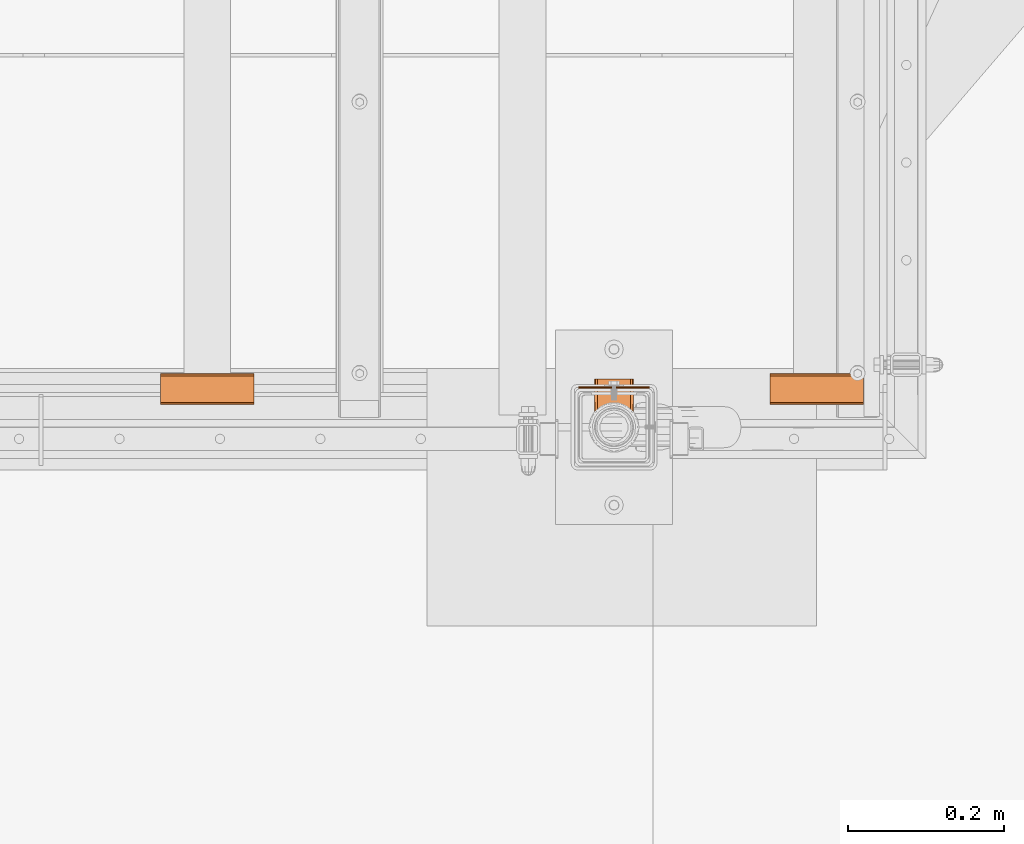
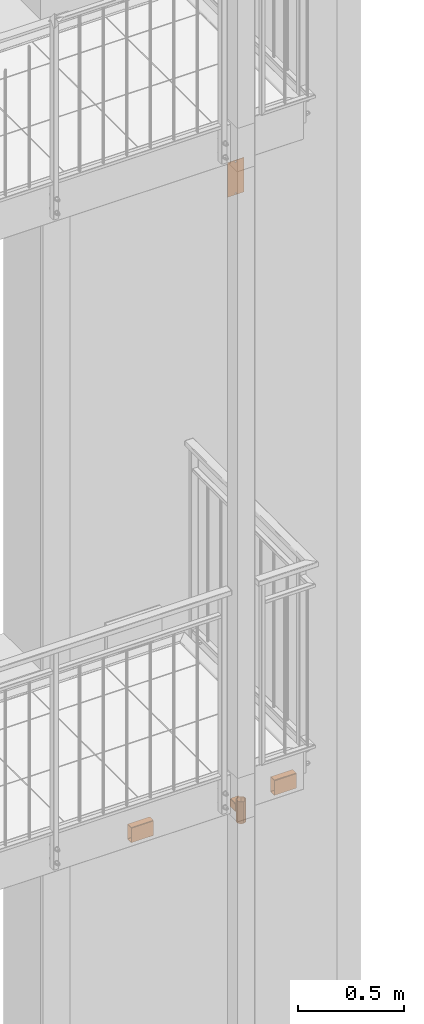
# One storey, part 85 of 162: 4 proxies.
"""IFC2X3 building model written with IfcOpenShell, lengths in millimetres."""

import ifcopenshell
import ifcopenshell.guid

model = None  # the IFC model being written
_history = None  # IfcOwnerHistory: only IFC2X3 demands one
_inside = {}  # id of a spatial element -> (the spatial element, [elements in it])
_under = {}  # id of a project, library or spatial element -> (it, [spatial elements below it])
_declared = {}  # id of a project -> (the project, [libraries it declares])
_typed = {}  # id of a type object -> (the type object, [elements of that type])
_made_of = {}  # id of a material, layer set ... -> (it, [elements and type objects made of it])


def new_model(schema):
    """Start an empty IFC model of exactly this schema.

    Asked for "IFC4X3", IfcOpenShell would pick the latest addendum, in which some entities
    have other attributes; the version numbers below select the first issue.
    IFC2X3 requires an IfcOwnerHistory on every rooted entity: one is made here for all.
    """
    global model, _history
    if schema == "IFC4X3":
        model = ifcopenshell.file(schema_version=(4, 3, 0, 0))
    else:
        model = ifcopenshell.file(schema=schema)
    _inside.clear()
    _under.clear()
    _declared.clear()
    _typed.clear()
    _made_of.clear()
    _history = None
    if model.schema == "IFC2X3":
        org = make("IfcOrganization", Name="unknown")
        user = make(
            "IfcPersonAndOrganization",
            ThePerson=make("IfcPerson", FamilyName="unknown"),
            TheOrganization=org,
        )
        app = make(
            "IfcApplication",
            ApplicationDeveloper=org,
            Version="unknown",
            ApplicationFullName="unknown",
            ApplicationIdentifier="unknown",
        )
        _history = make(
            "IfcOwnerHistory",
            OwningUser=user,
            OwningApplication=app,
            ChangeAction="ADDED",
            CreationDate=0,
        )
    return model


def make(cls, **values):
    """One entity of the class cls with the attributes given. An attribute that is None is left unset."""
    return model.create_entity(
        cls, **{name: value for name, value in values.items() if value is not None}
    )


def entity(cls, *values):
    """Any entity or typed value of the class cls, its attributes in the order of the schema. None: left unset."""
    e = model.create_entity(cls)
    for i, value in enumerate(values):
        if value is not None:
            e[i] = value
    return e


def rooted(cls, **values):
    """An entity with a GlobalId (a new one), such as an element, a storey or a relation."""
    return make(cls, GlobalId=ifcopenshell.guid.new(), OwnerHistory=_history, **values)


def si_unit(unit_type, name, prefix=None):
    """IfcSIUnit, for example si_unit("LENGTHUNIT", "METRE", prefix="MILLI")."""
    return make("IfcSIUnit", UnitType=unit_type, Prefix=prefix, Name=name)


def converted_unit(unit_type, name, factor, base, dimensions=None, offset=None):
    """IfcConversionBasedUnit, such as the inch: factor (a typed value) times the base unit."""
    return make(
        "IfcConversionBasedUnit"
        if offset is None
        else "IfcConversionBasedUnitWithOffset",
        ConversionOffset=offset,
        Dimensions=None
        if dimensions is None
        else entity("IfcDimensionalExponents", *dimensions),
        UnitType=unit_type,
        Name=name,
        ConversionFactor=make(
            "IfcMeasureWithUnit", ValueComponent=factor, UnitComponent=base
        ),
    )


def assignment(units):
    """IfcUnitAssignment: the units of a project."""
    return None if units is None else make("IfcUnitAssignment", Units=units)


def point(xyz):
    """IfcCartesianPoint."""
    return None if xyz is None else make("IfcCartesianPoint", Coordinates=xyz)


def direction(xyz):
    """IfcDirection."""
    return None if xyz is None else make("IfcDirection", DirectionRatios=xyz)


def frame(location, z_axis=None, x_axis=None):
    """IfcAxis2Placement3D, a coordinate frame: its origin and axes. An axis left out is left unset."""
    return make(
        "IfcAxis2Placement3D",
        Location=point(location),
        Axis=direction(z_axis),
        RefDirection=direction(x_axis),
    )


def origin_with_axes():
    """The frame at (0, 0, 0) with the z axis (0, 0, 1) and the x axis (1, 0, 0) written out."""
    return frame((0.0, 0.0, 0.0), z_axis=(0.0, 0.0, 1.0), x_axis=(1.0, 0.0, 0.0))


def place(relative_to, where):
    """IfcLocalPlacement: puts the frame where relative to a parent placement (None: the world)."""
    return make(
        "IfcLocalPlacement", PlacementRelTo=relative_to, RelativePlacement=where
    )


def context(
    kind, dimensions, precision=None, world=None, true_north=None, identifier=None
):
    """IfcGeometricRepresentationContext, for example the 3D "Model" context."""
    return make(
        "IfcGeometricRepresentationContext",
        ContextIdentifier=identifier,
        ContextType=kind,
        CoordinateSpaceDimension=dimensions,
        Precision=precision,
        WorldCoordinateSystem=world,
        TrueNorth=true_north,
    )


def project(units=None, contexts=None):
    """IfcProject with its units and contexts."""
    return rooted(
        "IfcProject",
        Name="project",
        RepresentationContexts=contexts,
        UnitsInContext=assignment(units),
    )


def spatial(cls, under=None, at=None, **own):
    """A site, building, storey or space (cls), placed at a placement, below another one or the project."""
    s = rooted(cls, ObjectPlacement=at, **own)
    if under is not None:
        _under.setdefault(under.id(), (under, []))[1].append(s)
    return s


def faces_of(points, faces, orient=None, outer=None):
    """IfcFace entities. A face is a list of loops; a loop is a list of indices into points, from 0.

    orient and outer hold one flag for each loop. By default every Orientation is true, the
    first loop of a face is its IfcFaceOuterBound and the others are IfcFaceBound.
    """
    made = []
    for i, loops in enumerate(faces):
        bounds = []
        for j, loop in enumerate(loops):
            is_outer = j == 0 if outer is None else outer[i][j]
            bounds.append(
                make(
                    "IfcFaceOuterBound" if is_outer else "IfcFaceBound",
                    Bound=make("IfcPolyLoop", Polygon=[points[k] for k in loop]),
                    Orientation=True if orient is None else orient[i][j],
                )
            )
        made.append(make("IfcFace", Bounds=bounds))
    return made


def faceted_brep(points, faces, orient=None, outer=None, voids=None):
    """IfcFacetedBrep: a solid bounded by flat faces; with voids (closed shells), ...WithVoids."""
    shared = [point(p) for p in points]
    hull = make("IfcClosedShell", CfsFaces=faces_of(shared, faces, orient, outer))
    if voids is None:
        return make("IfcFacetedBrep", Outer=hull)
    return make(
        "IfcFacetedBrepWithVoids",
        Outer=hull,
        Voids=[
            make(cls, CfsFaces=faces_of(shared, fs, o, b)) for cls, fs, o, b in voids
        ],
    )


def shape(context_of_items, identifier, shape_type, items):
    """IfcShapeRepresentation: the items that make up one representation, for example the "Body"."""
    return make(
        "IfcShapeRepresentation",
        ContextOfItems=context_of_items,
        RepresentationIdentifier=identifier,
        RepresentationType=shape_type,
        Items=items,
    )


def material(Name=None, Category=None):
    """IfcMaterial."""
    return make("IfcMaterial", Name=Name, Category=Category)


def made_of(thing, what):
    """Note that an element or type object is made of a material, layer set ...; save() writes the relation."""
    if what is not None:
        _made_of.setdefault(what.id(), (what, []))[1].append(thing)
    return thing


def element(
    cls,
    number,
    at=None,
    inside=None,
    cuts=None,
    type_object=None,
    material=None,
    context=None,
    identifier="Body",
    shape_type=None,
    held_by="IfcProductDefinitionShape",
    body=None,
    shapes=None,
    **own,
):
    """One element of the class cls, such as IfcWall. Its Tag is "e" and its number.

    at: its placement. inside: the storey or other place that contains it. cuts: it is an
    opening in that element (IfcRelVoidsElement). A single representation is given by context,
    identifier, shape_type and body (its items); several are given by shapes. held_by: the class
    of the entity that holds the representations. save() writes the other relations.
    """
    e = rooted(cls, Tag="e%d" % number, ObjectPlacement=at, **own)
    if body is not None:
        shapes = [shape(context, identifier, shape_type, body)]
    if shapes is not None:
        e.Representation = make(held_by, Representations=shapes)
    if inside is not None:
        _inside.setdefault(inside.id(), (inside, []))[1].append(e)
    if cuts is not None:
        rooted(
            "IfcRelVoidsElement", RelatingBuildingElement=cuts, RelatedOpeningElement=e
        )
    if type_object is not None:
        _typed.setdefault(type_object.id(), (type_object, []))[1].append(e)
    return made_of(e, material)


def aggregate(whole, parts):
    """IfcRelAggregates: a whole, such as a stair, and the parts it consists of."""
    return rooted("IfcRelAggregates", RelatingObject=whole, RelatedObjects=parts)


def save(model, path):
    """Write the relations noted so far, then the file.

    IfcRelAggregates (storeys below a building ...), IfcRelContainedInSpatialStructure (elements
    in a storey), IfcRelDefinesByType, IfcRelAssociatesMaterial and IfcRelDeclares: one each for
    every whole, place, type object, material and project.
    """
    for whole, parts in _under.values():
        aggregate(whole, parts)
    for where, things in _inside.values():
        rooted(
            "IfcRelContainedInSpatialStructure",
            RelatedElements=things,
            RelatingStructure=where,
        )
    for kind, things in _typed.values():
        rooted("IfcRelDefinesByType", RelatedObjects=things, RelatingType=kind)
    for what, things in _made_of.values():
        rooted("IfcRelAssociatesMaterial", RelatedObjects=things, RelatingMaterial=what)
    for by, libraries in _declared.values():
        rooted("IfcRelDeclares", RelatingContext=by, RelatedDefinitions=libraries)
    model.write(path)


model = new_model("IFC2X3")

# Units and contexts
model_context = context("Model", 3, precision=1e-09, world=origin_with_axes())
ifc_project = project(units=[si_unit("LENGTHUNIT", "METRE", prefix="MILLI"), si_unit("AREAUNIT", "SQUARE_METRE"), si_unit("VOLUMEUNIT", "CUBIC_METRE"), converted_unit("PLANEANGLEUNIT", "DEGREE", entity("IfcPlaneAngleMeasure", 0.01745329), si_unit("PLANEANGLEUNIT", "RADIAN"), dimensions=[0, 0, 0, 0, 0, 0, 0])], contexts=[model_context])

# Site, building, storey
site_placement = place(None, origin_with_axes())
site = spatial("IfcSite", under=ifc_project, at=site_placement, Name="Hermannstra?e 1a, 60318 Frankfurt", CompositionType="ELEMENT")
building_placement = place(site_placement, origin_with_axes())
building = spatial("IfcBuilding", under=site, at=building_placement, Name="Struktur 1", CompositionType="ELEMENT")
storey_placement = place(building_placement, origin_with_axes())
storey = spatial("IfcBuildingStorey", under=building, at=storey_placement, Name="Default Storey", CompositionType="ELEMENT", Elevation=0.0)

# Proxies
ifc_material_1 = material(Name="S235JR")
proxy_1_placement = place(None, origin_with_axes())
element("IfcBuildingElementProxy", 1, at=proxy_1_placement, inside=storey, material=ifc_material_1, ObjectType="-", context=model_context, shape_type="Brep", body=[
    faceted_brep([(5452.350576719, 1542.609373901, 11292.571710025), (5452.327698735, 1542.609373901, 11292.381537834), (5452.30936482, 1592.609373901, 11291.999), (5450.201414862, 1542.609373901, 11252.832478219), (5452.350576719, 1542.609373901, 11251.047165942), (5452.350576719, 1542.609373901, 11257.426289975), (5452.327698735, 1542.609373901, 11257.616462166), (5452.313950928, 1542.609373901, 11257.807511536), (5452.30936482, 1542.609373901, 11257.999), (5452.30936482, 1542.609373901, 11291.999), (5452.313950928, 1542.609373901, 11292.190488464), (5452.350576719, 1542.609373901, 11298.950834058), (5450.201414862, 1542.609373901, 11297.165521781), (5448.797254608, 1542.609373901, 11294.750036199), (5448.30936482, 1542.609373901, 11291.999), (5448.30936482, 1542.609373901, 11257.999), (5448.797254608, 1542.609373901, 11255.247963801), (5452.563771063, 1542.974289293, 11293.402750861), (5452.845263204, 1592.609373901, 11293.999), (5452.911785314, 1543.540321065, 11294.110024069), (5449.381161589, 1592.609373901, 11295.999), (5448.30936482, 1592.609373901, 11291.999), (5452.30936482, 1592.609373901, 11298.92720323), (5456.30936482, 1592.609373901, 11299.999), (5490.30936482, 1592.609373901, 11299.999), (5494.30936482, 1592.609373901, 11298.92720323), (5497.23756805, 1592.609373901, 11295.999), (5498.30936482, 1592.609373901, 11291.999), (5498.30936482, 1592.609373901, 11257.999), (5497.23756805, 1592.609373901, 11253.999), (5494.30936482, 1592.609373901, 11251.07079677), (5490.30936482, 1592.609373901, 11249.999), (5456.30936482, 1592.609373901, 11249.999), (5452.30936482, 1592.609373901, 11251.07079677), (5449.381161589, 1592.609373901, 11253.999), (5448.30936482, 1592.609373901, 11257.999), (5454.30936482, 1592.609373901, 11295.463101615), (5452.30936482, 1592.609373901, 11257.999), (5452.845263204, 1592.609373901, 11255.999), (5454.30936482, 1592.609373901, 11254.534898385), (5456.30936482, 1592.609373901, 11253.999), (5490.30936482, 1592.609373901, 11253.999), (5492.30936482, 1592.609373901, 11254.534898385), (5493.773466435, 1592.609373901, 11255.999), (5494.30936482, 1592.609373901, 11257.999), (5494.30936482, 1592.609373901, 11291.999), (5493.773466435, 1592.609373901, 11293.999), (5492.30936482, 1592.609373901, 11295.463101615), (5490.30936482, 1592.609373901, 11295.999), (5456.30936482, 1592.609373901, 11295.999), (5453.822811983, 1544.876293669, 11295.132217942), (5456.30936482, 1547.7636969, 11295.999), (5456.30936482, 1547.7636969, 11299.999), (5464.117609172, 1552.942811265, 11295.999), (5464.117609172, 1552.942811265, 11299.999), (5452.573414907, 1542.990448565, 11256.569836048), (5490.30936482, 1547.763696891, 11295.999), (5482.50112047, 1552.942811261, 11295.999), (5473.309364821, 1554.760373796, 11295.999), (5473.309364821, 1554.760373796, 11299.999), (5452.924848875, 1543.560904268, 11255.867118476), (5482.50112047, 1552.942811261, 11299.999), (5490.30936482, 1547.763696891, 11299.999), (5453.844527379, 1544.905878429, 11254.84870281), (5456.30936482, 1547.7636969, 11249.999), (5456.30936482, 1547.7636969, 11253.999), (5464.117609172, 1552.942811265, 11249.999), (5464.117609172, 1552.942811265, 11253.999), (5490.30936482, 1547.763696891, 11249.999), (5482.50112047, 1552.942811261, 11249.999), (5473.309364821, 1554.760373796, 11249.999), (5473.309364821, 1554.760373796, 11253.999), (5493.706944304, 1543.540321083, 11294.110024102), (5494.054958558, 1542.974289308, 11293.402750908), (5494.268152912, 1542.609373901, 11298.950834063), (5494.268152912, 1542.609373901, 11292.571710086), (5492.795917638, 1544.876293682, 11295.132217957), (5482.50112047, 1552.942811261, 11253.999), (5490.30936482, 1547.763696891, 11253.999), (5496.417314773, 1542.609373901, 11252.832478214), (5497.82147503, 1542.609373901, 11255.247963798), (5498.30936482, 1542.609373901, 11257.999), (5498.30936482, 1542.609373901, 11291.999), (5497.82147503, 1542.609373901, 11294.750036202), (5496.417314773, 1542.609373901, 11297.165521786), (5494.2910309, 1542.609373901, 11292.381537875), (5494.304778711, 1542.609373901, 11292.190488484), (5494.30936482, 1542.609373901, 11291.999), (5494.30936482, 1542.609373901, 11257.999), (5494.304778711, 1542.609373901, 11257.807511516), (5494.2910309, 1542.609373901, 11257.616462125), (5494.268152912, 1542.609373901, 11257.426289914), (5494.268152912, 1542.609373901, 11251.047165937), (5492.774202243, 1544.90587844, 11254.848702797), (5493.693880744, 1543.560904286, 11255.867118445), (5494.045314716, 1542.990448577, 11256.569836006)], [[[0, 1, 2]], [[3, 4, 5, 6, 7, 8, 9, 10, 1, 0, 11, 12, 13, 14, 15, 16]], [[17, 0, 2]], [[17, 11, 0]], [[10, 2, 1]], [[17, 2, 18]], [[19, 17, 18]], [[17, 19, 11]], [[10, 9, 2]], [[20, 21, 13]], [[22, 20, 12]], [[20, 22, 23, 24, 25, 26, 27, 28, 29, 30, 31, 32, 33, 34, 35, 21], [36, 18, 2, 37, 38, 39, 40, 41, 42, 43, 44, 45, 46, 47, 48, 49]], [[50, 19, 18]], [[19, 50, 11]], [[9, 8, 37, 2]], [[20, 13, 12]], [[21, 14, 13]], [[15, 14, 21, 35]], [[22, 12, 11]], [[50, 18, 36]], [[50, 51, 52]], [[50, 52, 11]], [[51, 53, 54, 52]], [[7, 6, 37]], [[7, 37, 8]], [[5, 37, 6]], [[16, 15, 35]], [[5, 4, 55]], [[23, 22, 11]], [[51, 50, 36]], [[49, 48, 56, 57, 58, 53, 51]], [[23, 11, 52]], [[53, 58, 59, 54]], [[5, 55, 37]], [[16, 35, 34]], [[60, 55, 4]], [[51, 36, 49]], [[59, 61, 62, 24, 23, 52, 54]], [[3, 16, 34]], [[55, 38, 37]], [[55, 60, 38]], [[63, 60, 4]], [[58, 57, 61, 59]], [[4, 3, 33]], [[3, 34, 33]], [[60, 63, 38]], [[63, 4, 64]], [[57, 56, 62, 61]], [[64, 4, 33]], [[63, 39, 38]], [[65, 63, 64]], [[64, 66, 67, 65]], [[56, 48, 47]], [[32, 31, 68, 69, 70, 66, 64]], [[64, 33, 32]], [[63, 65, 39]], [[66, 70, 71, 67]], [[72, 73, 74]], [[75, 74, 73]], [[72, 76, 46]], [[76, 56, 47]], [[56, 76, 62]], [[76, 72, 74]], [[65, 40, 39]], [[71, 77, 78, 41, 40, 65, 67]], [[73, 72, 46]], [[75, 73, 45]], [[79, 80, 81, 82, 83, 84, 74, 75, 85, 86, 87, 88, 89, 90, 91, 92]], [[76, 47, 46]], [[62, 25, 24]], [[76, 74, 62]], [[77, 71, 70, 69]], [[78, 77, 69, 68]], [[73, 46, 45]], [[75, 45, 85]], [[62, 74, 25]], [[93, 78, 68]], [[94, 93, 92]], [[95, 94, 92]], [[91, 90, 44]], [[95, 92, 91]], [[86, 85, 45]], [[74, 84, 25]], [[89, 88, 44]], [[89, 44, 90]], [[93, 68, 92]], [[78, 42, 41]], [[78, 93, 42]], [[93, 94, 43]], [[94, 95, 43]], [[95, 91, 44]], [[86, 45, 87]], [[88, 87, 45, 44]], [[83, 27, 26]], [[84, 26, 25]], [[31, 92, 68]], [[93, 43, 42]], [[82, 81, 28, 27]], [[95, 44, 43]], [[83, 82, 27]], [[84, 83, 26]], [[31, 30, 92]], [[30, 79, 92]], [[28, 81, 80]], [[30, 29, 79]], [[29, 28, 80]], [[29, 80, 79]]]),
    faceted_brep([(5452.458054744, 1538.082250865, 11293.083774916), (5452.349523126, 1537.772303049, 11292.572274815), (5452.436342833, 1542.755917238, 11293.003005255), (5452.350714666, 1537.775786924, 11257.417484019), (5452.458814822, 1538.084468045, 11256.911278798), (5452.425069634, 1542.736564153, 11257.038862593), (5452.30836482, 1542.533320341, 11257.998), (5452.30836482, 1542.533320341, 11292.0), (5450.997674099, 1539.851178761, 11197.999), (5450.997674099, 1539.851178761, 11323.999), (5452.749261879, 1543.278325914, 11293.825042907), (5452.775277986, 1538.914394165, 11293.875444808), (5453.074332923, 1539.618590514, 11323.999), (5452.733221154, 1543.252318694, 11256.204072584), (5452.784214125, 1538.93644692, 11256.105836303), (5453.074332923, 1539.618590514, 11197.999), (5452.30836482, 1537.650716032, 11257.998), (5452.30836482, 1537.650716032, 11292.0), (5453.690911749, 1544.692624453, 11295.024687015), (5453.674163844, 1540.860237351, 11295.010116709), (5453.674712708, 1540.861329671, 11254.987368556), (5453.659785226, 1544.649160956, 11255.000497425), (5449.15936481, 1530.60937387, 11197.999), (5449.15936481, 1530.60937387, 11323.999), (5451.15936481, 1530.60937387, 11323.999), (5456.30836482, 1544.807560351, 11296.0), (5456.232736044, 1513.532745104, 11197.999), (5450.997674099, 1521.367568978, 11197.999), (5456.232736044, 1547.686002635, 11197.999), (5464.067559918, 1552.92106458, 11197.999), (5473.30936481, 1554.75937387, 11197.999), (5482.551169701, 1552.92106458, 11197.999), (5490.385993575, 1547.686002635, 11197.999), (5495.62105552, 1539.851178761, 11197.999), (5497.45936481, 1530.60937387, 11197.999), (5495.62105552, 1521.367568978, 11197.999), (5490.385993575, 1513.532745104, 11197.999), (5482.551169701, 1508.29768316, 11197.999), (5473.30936481, 1506.45937387, 11197.999), (5464.067559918, 1508.29768316, 11197.999), (5451.15936481, 1530.60937387, 11197.999), (5453.074332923, 1521.600157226, 11197.999), (5458.488121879, 1514.148715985, 11197.999), (5466.464638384, 1509.543472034, 11197.999), (5475.624670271, 1508.580713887, 11197.999), (5484.38436481, 1511.426911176, 11197.999), (5491.229091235, 1517.589930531, 11197.999), (5494.975334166, 1526.004129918, 11197.999), (5494.975334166, 1535.214617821, 11197.999), (5491.229091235, 1543.628817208, 11197.999), (5484.38436481, 1549.791836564, 11197.999), (5475.624670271, 1552.638033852, 11197.999), (5466.464638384, 1551.675275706, 11197.999), (5458.488121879, 1547.070031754, 11197.999), (5456.30836482, 1544.807560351, 11253.998), (5456.232736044, 1547.686002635, 11323.999), (5450.997674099, 1521.367568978, 11323.999), (5456.232736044, 1513.532745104, 11323.999), (5464.067559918, 1508.29768316, 11323.999), (5473.30936481, 1506.45937387, 11323.999), (5482.551169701, 1508.29768316, 11323.999), (5490.385993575, 1513.532745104, 11323.999), (5495.62105552, 1521.367568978, 11323.999), (5497.45936481, 1530.60937387, 11323.999), (5495.62105552, 1539.851178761, 11323.999), (5490.385993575, 1547.686002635, 11323.999), (5482.551169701, 1552.92106458, 11323.999), (5473.30936481, 1554.75937387, 11323.999), (5464.067559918, 1552.92106458, 11323.999), (5458.488121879, 1547.070031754, 11323.999), (5466.464638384, 1551.675275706, 11323.999), (5475.624670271, 1552.638033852, 11323.999), (5484.38436481, 1549.791836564, 11323.999), (5491.229091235, 1543.628817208, 11323.999), (5494.975334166, 1535.214617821, 11323.999), (5494.975334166, 1526.004129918, 11323.999), (5491.229091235, 1517.589930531, 11323.999), (5484.38436481, 1511.426911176, 11323.999), (5475.624670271, 1508.580713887, 11323.999), (5466.464638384, 1509.543472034, 11323.999), (5458.488121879, 1514.148715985, 11323.999), (5453.074332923, 1521.600157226, 11323.999), (5456.30836482, 1547.761297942, 11296.0), (5456.30836482, 1547.761297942, 11253.998), (5482.501849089, 1552.94143004, 11296.0), (5490.31036482, 1547.76129792, 11296.0), (5490.31036482, 1544.807560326, 11296.0), (5484.411161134, 1549.776340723, 11296.0), (5477.16583286, 1552.421071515, 11296.0), (5469.452896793, 1552.421071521, 11296.0), (5462.207568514, 1549.77634074, 11296.0), (5464.116880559, 1552.941430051, 11296.0), (5473.309364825, 1554.75937387, 11296.0), (5477.16583286, 1552.421071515, 11253.998), (5484.411161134, 1549.776340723, 11253.998), (5490.31036482, 1544.807560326, 11253.998), (5490.31036482, 1547.76129792, 11253.998), (5482.501849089, 1552.94143004, 11253.998), (5473.309364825, 1554.75937387, 11253.998), (5464.116880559, 1552.941430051, 11253.998), (5462.207568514, 1549.77634074, 11253.998), (5469.452896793, 1552.421071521, 11253.998), (5492.958944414, 1544.649160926, 11294.997502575), (5492.944565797, 1540.860237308, 11295.010116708), (5493.885508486, 1543.25231866, 11293.793927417), (5494.193660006, 1542.736564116, 11292.959137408), (5492.944565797, 1540.860237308, 11254.987883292), (5492.958944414, 1544.649160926, 11255.000497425), (5494.160674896, 1538.082250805, 11293.083774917), (5493.843451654, 1538.914394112, 11256.122555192), (5493.885508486, 1543.25231866, 11256.204072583), (5493.843451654, 1538.914394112, 11293.875444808), (5494.193660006, 1542.736564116, 11257.038862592), (5494.31036482, 1542.533320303, 11292.0), (5494.269206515, 1537.772302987, 11292.572274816), (5494.160674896, 1538.082250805, 11256.914225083), (5494.31036482, 1542.533320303, 11257.998), (5494.31036482, 1537.650715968, 11292.0), (5494.31036482, 1537.650715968, 11257.998), (5494.269206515, 1537.772302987, 11257.425725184)], [[[0, 1, 2]], [[3, 4, 5]], [[3, 5, 6]], [[1, 7, 2]], [[7, 6, 8, 9]], [[7, 9, 2]], [[0, 2, 10]], [[11, 0, 10]], [[12, 1, 0]], [[6, 5, 8]], [[4, 13, 5]], [[4, 14, 13]], [[4, 3, 15]], [[3, 6, 16]], [[1, 17, 7]], [[6, 7, 17, 16]], [[10, 2, 9]], [[11, 10, 18]], [[12, 17, 1]], [[19, 11, 18]], [[12, 0, 11]], [[5, 13, 8]], [[4, 15, 14]], [[14, 20, 13]], [[20, 21, 13]], [[3, 16, 15]], [[9, 8, 22, 23]], [[18, 10, 9]], [[12, 24, 17]], [[25, 19, 18]], [[12, 11, 19]], [[21, 8, 13]], [[26, 27, 22, 8, 28, 29, 30, 31, 32, 33, 34, 35, 36, 37, 38, 39], [40, 41, 42, 43, 44, 45, 46, 47, 48, 49, 50, 51, 52, 53, 15]], [[20, 14, 15]], [[20, 54, 21]], [[40, 15, 16]], [[17, 24, 40, 16]], [[55, 9, 23, 56, 57, 58, 59, 60, 61, 62, 63, 64, 65, 66, 67, 68], [24, 12, 69, 70, 71, 72, 73, 74, 75, 76, 77, 78, 79, 80, 81]], [[23, 22, 27, 56]], [[18, 9, 55]], [[25, 18, 82]], [[12, 19, 25]], [[21, 28, 8]], [[54, 20, 15]], [[54, 83, 21]], [[82, 18, 55]], [[84, 85, 86, 87, 88, 89, 90, 25, 82, 91, 92]], [[69, 12, 25]], [[21, 83, 28]], [[54, 15, 53]], [[93, 94, 95, 96, 97, 98, 99, 83, 54, 100, 101]], [[40, 24, 81, 41]], [[56, 27, 26, 57]], [[82, 55, 68]], [[69, 25, 90]], [[83, 29, 28]], [[100, 54, 53]], [[91, 82, 68]], [[70, 69, 90]], [[83, 99, 29]], [[100, 53, 52]], [[41, 81, 80, 42]], [[57, 26, 39, 58]], [[92, 91, 67]], [[91, 68, 67]], [[70, 90, 89]], [[99, 98, 30]], [[99, 30, 29]], [[101, 100, 52]], [[84, 92, 67]], [[71, 70, 89]], [[98, 97, 30]], [[101, 52, 51]], [[42, 80, 79, 43]], [[58, 39, 38, 59]], [[84, 67, 66]], [[71, 89, 88]], [[97, 31, 30]], [[93, 101, 51]], [[85, 84, 66]], [[72, 71, 88]], [[72, 88, 87]], [[97, 96, 31]], [[93, 51, 50]], [[94, 93, 50]], [[43, 79, 78, 44]], [[59, 38, 37, 60]], [[86, 85, 102]], [[85, 66, 65]], [[72, 87, 86]], [[103, 86, 102]], [[103, 102, 104]], [[105, 104, 64]], [[96, 32, 31]], [[95, 94, 50]], [[106, 96, 95]], [[106, 107, 96]], [[108, 104, 105]], [[109, 110, 107]], [[102, 64, 104]], [[102, 85, 65]], [[73, 72, 86]], [[73, 86, 103]], [[111, 103, 104]], [[108, 111, 104]], [[110, 112, 33]], [[113, 105, 64]], [[96, 107, 32]], [[107, 110, 33]], [[95, 50, 49]], [[106, 95, 49]], [[106, 109, 107]], [[44, 78, 77, 45]], [[60, 37, 36, 61]], [[114, 108, 105]], [[114, 105, 113]], [[109, 115, 110]], [[115, 112, 110]], [[102, 65, 64]], [[111, 73, 103]], [[111, 108, 74]], [[116, 33, 112]], [[113, 64, 33, 116]], [[107, 33, 32]], [[109, 106, 49]], [[108, 114, 74]], [[114, 113, 117]], [[113, 116, 118, 117]], [[109, 48, 115]], [[115, 119, 112]], [[119, 116, 112]], [[35, 62, 61, 36]], [[111, 74, 73]], [[109, 49, 48]], [[45, 77, 76, 46]], [[117, 74, 114]], [[119, 115, 48]], [[119, 118, 116]], [[62, 35, 34, 63]], [[63, 34, 33, 64]], [[117, 118, 48, 74]], [[118, 119, 48]], [[46, 76, 75, 47]], [[74, 48, 47, 75]]]),
])
ifc_material_2 = material(Name="Alu")
proxy_2_placement = place(None, origin_with_axes())
element("IfcBuildingElementProxy", 2, at=proxy_2_placement, inside=storey, material=ifc_material_2, ObjectType="-", context=model_context, shape_type="Brep", body=[
    faceted_brep([(5011.55936482, 1596.609373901, 11255.802847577), (5011.55936482, 1598.805526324, 11257.999), (5011.55936482, 1599.609373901, 11260.999), (5011.55936482, 1599.609373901, 11338.999), (5011.55936482, 1598.805526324, 11341.999), (5011.55936482, 1596.609373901, 11344.195152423), (5011.55936482, 1593.609373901, 11344.999), (5011.55936482, 1565.609373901, 11344.999), (5011.55936482, 1562.609373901, 11344.195152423), (5011.55936482, 1560.413221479, 11341.999), (5011.55936482, 1559.609373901, 11338.999), (5011.55936482, 1559.609373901, 11260.999), (5011.55936482, 1560.413221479, 11257.999), (5011.55936482, 1562.609373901, 11255.802847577), (5011.55936482, 1565.609373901, 11254.999), (5011.55936482, 1593.609373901, 11254.999), (5011.55936482, 1596.609373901, 11260.999), (5011.55936482, 1596.207450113, 11259.499), (5011.55936482, 1595.109373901, 11258.400923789), (5011.55936482, 1593.609373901, 11257.999), (5011.55936482, 1565.609373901, 11257.999), (5011.55936482, 1564.109373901, 11258.400923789), (5011.55936482, 1563.01129769, 11259.499), (5011.55936482, 1562.609373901, 11260.999), (5011.55936482, 1562.609373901, 11338.999), (5011.55936482, 1563.01129769, 11340.499), (5011.55936482, 1564.109373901, 11341.597076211), (5011.55936482, 1565.609373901, 11341.999), (5011.55936482, 1593.609373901, 11341.999), (5011.55936482, 1595.109373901, 11341.597076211), (5011.55936482, 1596.207450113, 11340.499), (5011.55936482, 1596.609373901, 11338.999), (4891.55936482, 1596.609373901, 11260.999), (4891.55936482, 1596.207450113, 11259.499), (4891.55936482, 1599.609373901, 11260.999), (4891.55936482, 1598.805526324, 11257.999), (4891.55936482, 1598.805526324, 11341.999), (4891.55936482, 1599.609373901, 11338.999), (4891.55936482, 1596.609373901, 11255.802847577), (4891.55936482, 1593.609373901, 11254.999), (4891.55936482, 1565.609373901, 11254.999), (4891.55936482, 1562.609373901, 11255.802847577), (4891.55936482, 1560.413221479, 11257.999), (4891.55936482, 1559.609373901, 11260.999), (4891.55936482, 1559.609373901, 11338.999), (4891.55936482, 1560.413221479, 11341.999), (4891.55936482, 1562.609373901, 11344.195152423), (4891.55936482, 1565.609373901, 11344.999), (4891.55936482, 1593.609373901, 11344.999), (4891.55936482, 1596.609373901, 11344.195152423), (4891.55936482, 1596.609373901, 11338.999), (4891.55936482, 1596.207450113, 11340.499), (4891.55936482, 1595.109373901, 11341.597076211), (4891.55936482, 1593.609373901, 11341.999), (4891.55936482, 1565.609373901, 11341.999), (4891.55936482, 1564.109373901, 11341.597076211), (4891.55936482, 1563.01129769, 11340.499), (4891.55936482, 1562.609373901, 11338.999), (4891.55936482, 1562.609373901, 11260.999), (4891.55936482, 1563.01129769, 11259.499), (4891.55936482, 1564.109373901, 11258.400923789), (4891.55936482, 1565.609373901, 11257.999), (4891.55936482, 1593.609373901, 11257.999), (4891.55936482, 1595.109373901, 11258.400923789)], [[[0, 1, 2, 3, 4, 5, 6, 7, 8, 9, 10, 11, 12, 13, 14, 15], [16, 17, 18, 19, 20, 21, 22, 23, 24, 25, 26, 27, 28, 29, 30, 31]], [[16, 32, 33, 17]], [[34, 2, 1, 35]], [[36, 37, 34, 35, 38, 39, 40, 41, 42, 43, 44, 45, 46, 47, 48, 49], [50, 51, 52, 53, 54, 55, 56, 57, 58, 59, 60, 61, 62, 63, 33, 32]], [[16, 31, 50, 32]], [[34, 37, 3, 2]], [[3, 37, 36, 4]], [[17, 33, 63, 18]], [[35, 1, 0, 38]], [[50, 31, 30, 51]], [[4, 36, 49, 5]], [[18, 63, 62, 19]], [[38, 0, 15, 39]], [[51, 30, 29, 52]], [[5, 49, 48, 6]], [[62, 61, 20, 19]], [[15, 14, 40, 39]], [[52, 29, 28, 53]], [[48, 47, 7, 6]], [[28, 27, 54, 53]], [[20, 61, 60, 21]], [[40, 14, 13, 41]], [[7, 47, 46, 8]], [[54, 27, 26, 55]], [[21, 60, 59, 22]], [[41, 13, 12, 42]], [[11, 43, 42, 12]], [[8, 46, 45, 9]], [[55, 26, 25, 56]], [[22, 59, 58, 23]], [[11, 10, 44, 43]], [[24, 57, 56, 25]], [[24, 23, 58, 57]], [[9, 45, 44, 10]]]),
])
proxy_3_placement = place(None, origin_with_axes())
element("IfcBuildingElementProxy", 3, at=proxy_3_placement, inside=storey, material=ifc_material_2, ObjectType="-", context=model_context, shape_type="Brep", body=[
    faceted_brep([(5793.30936482, 1596.609373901, 11255.802847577), (5793.30936482, 1598.805526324, 11257.999), (5793.30936482, 1599.609373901, 11260.999), (5793.30936482, 1599.609373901, 11338.999), (5793.30936482, 1598.805526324, 11341.999), (5793.30936482, 1596.609373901, 11344.195152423), (5793.30936482, 1593.609373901, 11344.999), (5793.30936482, 1565.609373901, 11344.999), (5793.30936482, 1562.609373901, 11344.195152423), (5793.30936482, 1560.413221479, 11341.999), (5793.30936482, 1559.609373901, 11338.999), (5793.30936482, 1559.609373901, 11260.999), (5793.30936482, 1560.413221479, 11257.999), (5793.30936482, 1562.609373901, 11255.802847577), (5793.30936482, 1565.609373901, 11254.999), (5793.30936482, 1593.609373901, 11254.999), (5793.30936482, 1596.609373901, 11260.999), (5793.30936482, 1596.207450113, 11259.499), (5793.30936482, 1595.109373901, 11258.400923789), (5793.30936482, 1593.609373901, 11257.999), (5793.30936482, 1565.609373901, 11257.999), (5793.30936482, 1564.109373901, 11258.400923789), (5793.30936482, 1563.01129769, 11259.499), (5793.30936482, 1562.609373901, 11260.999), (5793.30936482, 1562.609373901, 11338.999), (5793.30936482, 1563.01129769, 11340.499), (5793.30936482, 1564.109373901, 11341.597076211), (5793.30936482, 1565.609373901, 11341.999), (5793.30936482, 1593.609373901, 11341.999), (5793.30936482, 1595.109373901, 11341.597076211), (5793.30936482, 1596.207450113, 11340.499), (5793.30936482, 1596.609373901, 11338.999), (5673.30936482, 1596.609373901, 11260.999), (5673.30936482, 1596.207450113, 11259.499), (5673.30936482, 1599.609373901, 11260.999), (5673.30936482, 1598.805526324, 11257.999), (5673.30936482, 1598.805526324, 11341.999), (5673.30936482, 1599.609373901, 11338.999), (5673.30936482, 1596.609373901, 11255.802847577), (5673.30936482, 1593.609373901, 11254.999), (5673.30936482, 1565.609373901, 11254.999), (5673.30936482, 1562.609373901, 11255.802847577), (5673.30936482, 1560.413221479, 11257.999), (5673.30936482, 1559.609373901, 11260.999), (5673.30936482, 1559.609373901, 11338.999), (5673.30936482, 1560.413221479, 11341.999), (5673.30936482, 1562.609373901, 11344.195152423), (5673.30936482, 1565.609373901, 11344.999), (5673.30936482, 1593.609373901, 11344.999), (5673.30936482, 1596.609373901, 11344.195152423), (5673.30936482, 1596.609373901, 11338.999), (5673.30936482, 1596.207450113, 11340.499), (5673.30936482, 1595.109373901, 11341.597076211), (5673.30936482, 1593.609373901, 11341.999), (5673.30936482, 1565.609373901, 11341.999), (5673.30936482, 1564.109373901, 11341.597076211), (5673.30936482, 1563.01129769, 11340.499), (5673.30936482, 1562.609373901, 11338.999), (5673.30936482, 1562.609373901, 11260.999), (5673.30936482, 1563.01129769, 11259.499), (5673.30936482, 1564.109373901, 11258.400923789), (5673.30936482, 1565.609373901, 11257.999), (5673.30936482, 1593.609373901, 11257.999), (5673.30936482, 1595.109373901, 11258.400923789)], [[[0, 1, 2, 3, 4, 5, 6, 7, 8, 9, 10, 11, 12, 13, 14, 15], [16, 17, 18, 19, 20, 21, 22, 23, 24, 25, 26, 27, 28, 29, 30, 31]], [[16, 32, 33, 17]], [[34, 2, 1, 35]], [[36, 37, 34, 35, 38, 39, 40, 41, 42, 43, 44, 45, 46, 47, 48, 49], [50, 51, 52, 53, 54, 55, 56, 57, 58, 59, 60, 61, 62, 63, 33, 32]], [[16, 31, 50, 32]], [[34, 37, 3, 2]], [[3, 37, 36, 4]], [[17, 33, 63, 18]], [[35, 1, 0, 38]], [[50, 31, 30, 51]], [[4, 36, 49, 5]], [[18, 63, 62, 19]], [[38, 0, 15, 39]], [[51, 30, 29, 52]], [[5, 49, 48, 6]], [[62, 61, 20, 19]], [[15, 14, 40, 39]], [[52, 29, 28, 53]], [[48, 47, 7, 6]], [[28, 27, 54, 53]], [[20, 61, 60, 21]], [[40, 14, 13, 41]], [[7, 47, 46, 8]], [[54, 27, 26, 55]], [[21, 60, 59, 22]], [[41, 13, 12, 42]], [[11, 43, 42, 12]], [[8, 46, 45, 9]], [[55, 26, 25, 56]], [[22, 59, 58, 23]], [[11, 10, 44, 43]], [[24, 57, 56, 25]], [[24, 23, 58, 57]], [[9, 45, 44, 10]]]),
])
ifc_material_3 = material(Name="Kein")
proxy_4_placement = place(None, origin_with_axes())
element("IfcBuildingElementProxy", 4, at=proxy_4_placement, inside=storey, material=ifc_material_3, ObjectType="-", context=model_context, shape_type="Brep", body=[
    faceted_brep([(5469.30836482, 1582.609373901, 14796.999), (5469.30836482, 1580.609373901, 14796.999), (5469.844397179, 1580.609373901, 14794.9985), (5469.844397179, 1582.609373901, 14794.9985), (5471.30886482, 1580.609373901, 14793.534032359), (5471.30886482, 1582.609373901, 14793.534032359), (5469.844397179, 1582.609373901, 14798.9995), (5469.844397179, 1580.609373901, 14798.9995), (5471.30886482, 1582.609373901, 14800.463967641), (5471.30886482, 1580.609373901, 14800.463967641), (5428.30936482, 1580.609373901, 14986.999), (5428.30936482, 1580.609373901, 14786.999), (5518.30936482, 1580.609373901, 14786.999), (5518.30936482, 1580.609373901, 14986.999), (5471.30886482, 1580.609373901, 14973.534032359), (5469.844397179, 1580.609373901, 14974.9985), (5469.30836482, 1580.609373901, 14976.999), (5469.844397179, 1580.609373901, 14978.9995), (5471.30886482, 1580.609373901, 14980.463967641), (5473.30936482, 1580.609373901, 14981.0), (5475.30986482, 1580.609373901, 14980.463967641), (5476.77433246, 1580.609373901, 14978.9995), (5477.31036482, 1580.609373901, 14976.999), (5476.77433246, 1580.609373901, 14974.9985), (5475.30986482, 1580.609373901, 14973.534032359), (5473.30936482, 1580.609373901, 14972.998), (5473.30936482, 1580.609373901, 14801.0), (5475.30986482, 1580.609373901, 14800.463967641), (5476.77433246, 1580.609373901, 14798.9995), (5477.31036482, 1580.609373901, 14796.999), (5476.77433246, 1580.609373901, 14794.9985), (5475.30986482, 1580.609373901, 14793.534032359), (5473.30936482, 1580.609373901, 14792.998), (5469.844397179, 1582.609373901, 14974.9985), (5471.30886482, 1582.609373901, 14973.534032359), (5428.30936482, 1582.609373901, 14986.999), (5518.30936482, 1582.609373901, 14986.999), (5518.30936482, 1582.609373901, 14786.999), (5428.30936482, 1582.609373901, 14786.999), (5473.30936482, 1582.609373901, 14792.998), (5475.30986482, 1582.609373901, 14793.534032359), (5476.77433246, 1582.609373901, 14794.9985), (5477.31036482, 1582.609373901, 14796.999), (5476.77433246, 1582.609373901, 14798.9995), (5475.30986482, 1582.609373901, 14800.463967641), (5473.30936482, 1582.609373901, 14801.0), (5476.77433246, 1582.609373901, 14974.9985), (5477.31036482, 1582.609373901, 14976.999), (5476.77433246, 1582.609373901, 14978.9995), (5475.30986482, 1582.609373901, 14980.463967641), (5473.30936482, 1582.609373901, 14981.0), (5471.30886482, 1582.609373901, 14980.463967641), (5469.844397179, 1582.609373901, 14978.9995), (5469.30836482, 1582.609373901, 14976.999), (5473.30936482, 1582.609373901, 14972.998), (5475.30986482, 1582.609373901, 14973.534032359)], [[[0, 1, 2, 3]], [[3, 2, 4, 5]], [[1, 0, 6, 7]], [[7, 6, 8, 9]], [[10, 11, 12, 13], [14, 15, 16, 17, 18, 19, 20, 21, 22, 23, 24, 25], [1, 7, 9, 26, 27, 28, 29, 30, 31, 32, 4, 2]], [[33, 15, 14, 34]], [[35, 36, 37, 38], [0, 3, 5, 39, 40, 41, 42, 43, 44, 45, 8, 6], [46, 47, 48, 49, 50, 51, 52, 53, 33, 34, 54, 55]], [[15, 33, 53, 16]], [[5, 4, 32, 39]], [[9, 8, 45, 26]], [[16, 53, 52, 17]], [[39, 32, 31, 40]], [[34, 14, 25, 54]], [[17, 52, 51, 18]], [[11, 10, 35, 38]], [[40, 31, 30, 41]], [[26, 45, 44, 27]], [[18, 51, 50, 19]], [[38, 37, 12, 11]], [[41, 30, 29, 42]], [[28, 43, 42, 29]], [[27, 44, 43, 28]], [[54, 25, 24, 55]], [[10, 13, 36, 35]], [[13, 12, 37, 36]], [[19, 50, 49, 20]], [[55, 24, 23, 46]], [[20, 49, 48, 21]], [[46, 23, 22, 47]], [[21, 48, 47, 22]]]),
])

save(model, "model.ifc")
